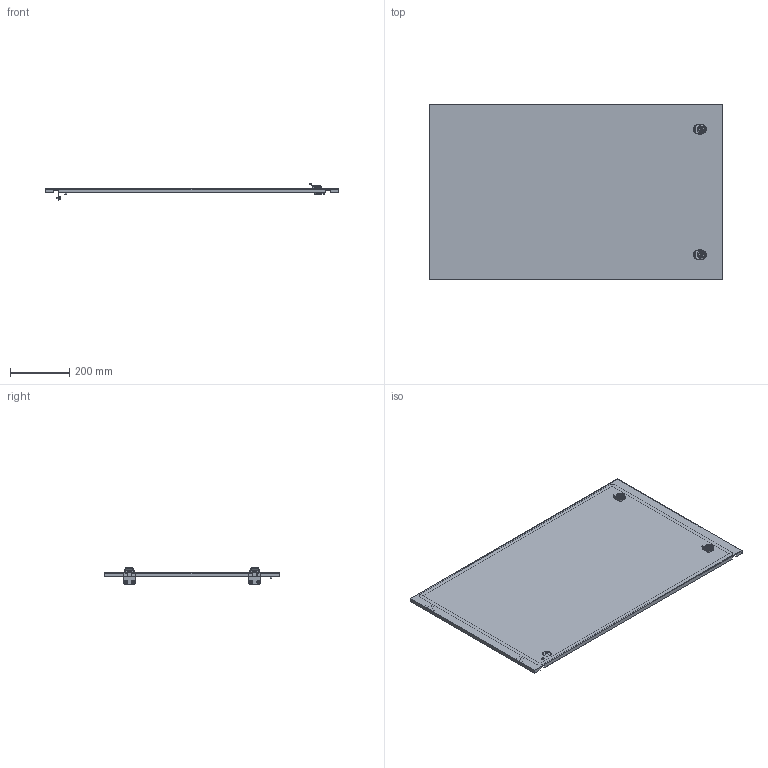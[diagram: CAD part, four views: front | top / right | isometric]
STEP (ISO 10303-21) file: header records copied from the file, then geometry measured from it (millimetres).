
FILE_DESCRIPTION (( 'STEP AP214' ), '1' );
FILE_NAME ('FO-00-ESD-060-100 Äâåðü ñåêöèîííàÿ âíåøíÿÿ 600õ1000 ìì.STEP', '2025-08-20T06:13:45', ( '' ), ( '' ), 'SwSTEP 2.0', 'SolidWorks 2023', '' );
FILE_SCHEMA (( 'AUTOMOTIVE_DESIGN' ));
Length unit declared in the file: millimetre
Products named in the file (4): FO-00-ESD-060-100 Дверь секционная внешняя 600х1000 мм; FO-00-ESD-060-100 Дверь секционная внешняя 600х1000 мм.STEP; Петля.STEP; Дверь секционная внешняя 600х1000.STEP
Assembly tree (4 placements, depth 3):
  FO-00-ESD-060-100 Дверь секционная внешняя 600х1000 мм
    FO-00-ESD-060-100 Дверь секционная внешняя 600х1000 мм.STEP
      Дверь секционная внешняя 600х1000.STEP
      Петля.STEP  x2
Bounding box: 995 x 596 x 57.25 mm (x, y, z)
Volume: 1409671.9 mm3; surface area: 1301540.3 mm2
Topology: 3 solids, 12 shells, 703 faces, 1803 edges, 1166 vertices
Faces by surface type: plane 343, cylinder 268, torus 34, bspline 30, cone 28
Entity records: 20618 total; most frequent: CARTESIAN_POINT 5770, ORIENTED_EDGE 3096, DIRECTION 3062, EDGE_CURVE 1548, AXIS2_PLACEMENT_3D 1050, VERTEX_POINT 1004, LINE 962, VECTOR 962
